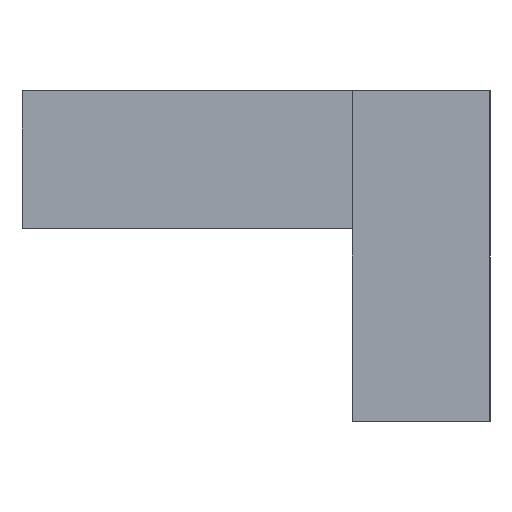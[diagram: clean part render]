
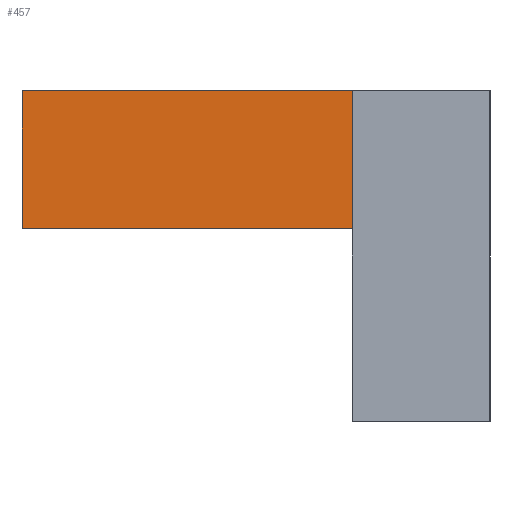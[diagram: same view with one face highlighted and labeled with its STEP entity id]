
A CAD part, left-side view. The second image highlights one B-rep face of the part: STEP entity #457.
In plain terms, the highlighted planar face has unit normal (-1, 0, 0).
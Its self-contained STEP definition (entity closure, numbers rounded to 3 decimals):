
#79 = VERTEX_POINT('',#80);
#80 = CARTESIAN_POINT('',(-223.,0.,6.));
#86 = EDGE_CURVE('',#87,#79,#89,.T.);
#87 = VERTEX_POINT('',#88);
#88 = CARTESIAN_POINT('',(-223.,0.,1.));
#89 = LINE('',#90,#91);
#90 = CARTESIAN_POINT('',(-223.,0.,1.));
#91 = VECTOR('',#92,1.);
#92 = DIRECTION('',(0.,0.,1.));
#440 = VERTEX_POINT('',#441);
#441 = CARTESIAN_POINT('',(-223.,12.,1.));
#447 = EDGE_CURVE('',#87,#440,#448,.T.);
#448 = LINE('',#449,#450);
#449 = CARTESIAN_POINT('',(-223.,0.,1.));
#450 = VECTOR('',#451,1.);
#451 = DIRECTION('',(0.,1.,0.));
#457 = ADVANCED_FACE('',(#458),#476,.F.);
#458 = FACE_BOUND('',#459,.F.);
#459 = EDGE_LOOP('',(#460,#461,#469,#475));
#460 = ORIENTED_EDGE('',*,*,#447,.T.);
#461 = ORIENTED_EDGE('',*,*,#462,.T.);
#462 = EDGE_CURVE('',#440,#463,#465,.T.);
#463 = VERTEX_POINT('',#464);
#464 = CARTESIAN_POINT('',(-223.,12.,6.));
#465 = LINE('',#466,#467);
#466 = CARTESIAN_POINT('',(-223.,12.,1.));
#467 = VECTOR('',#468,1.);
#468 = DIRECTION('',(0.,0.,1.));
#469 = ORIENTED_EDGE('',*,*,#470,.F.);
#470 = EDGE_CURVE('',#79,#463,#471,.T.);
#471 = LINE('',#472,#473);
#472 = CARTESIAN_POINT('',(-223.,0.,6.));
#473 = VECTOR('',#474,1.);
#474 = DIRECTION('',(0.,1.,0.));
#475 = ORIENTED_EDGE('',*,*,#86,.F.);
#476 = PLANE('',#477);
#477 = AXIS2_PLACEMENT_3D('',#478,#479,#480);
#478 = CARTESIAN_POINT('',(-223.,0.,1.));
#479 = DIRECTION('',(1.,0.,0.));
#480 = DIRECTION('',(0.,0.,1.));
